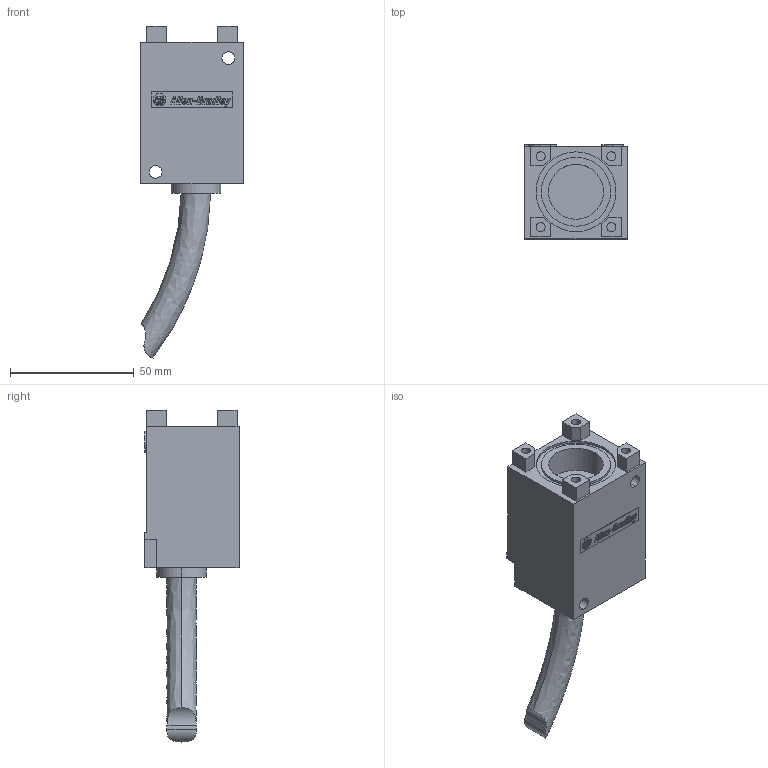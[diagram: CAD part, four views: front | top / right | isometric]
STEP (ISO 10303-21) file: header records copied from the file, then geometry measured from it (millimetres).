
FILE_DESCRIPTION (( 'STEP AP214' ), '1' );
FILE_NAME ('802MC-XY5.STEP', '2009-07-25T02:01:38', ( 'me' ), ( '' ), 'SwSTEP 2.0', 'SolidWorks 2007', '' );
FILE_SCHEMA (( 'AUTOMOTIVE_DESIGN' ));
Length unit declared in the file: millimetre
Products named in the file (1): 802MC-XY5
Bounding box: 41.27 x 38.23 x 134.09 mm (x, y, z)
Volume: 90784.8 mm3; surface area: 18889.1 mm2
Topology: 20 solids, 20 shells, 596 faces, 1620 edges, 1080 vertices
Faces by surface type: plane 559, cylinder 35, bspline 2
Entity records: 25482 total; most frequent: CARTESIAN_POINT 3523, ORIENTED_EDGE 3240, DIRECTION 2868, EDGE_CURVE 1620, VECTOR 1546, LINE 1546, VERTEX_POINT 1080, AXIS2_PLACEMENT_3D 661
